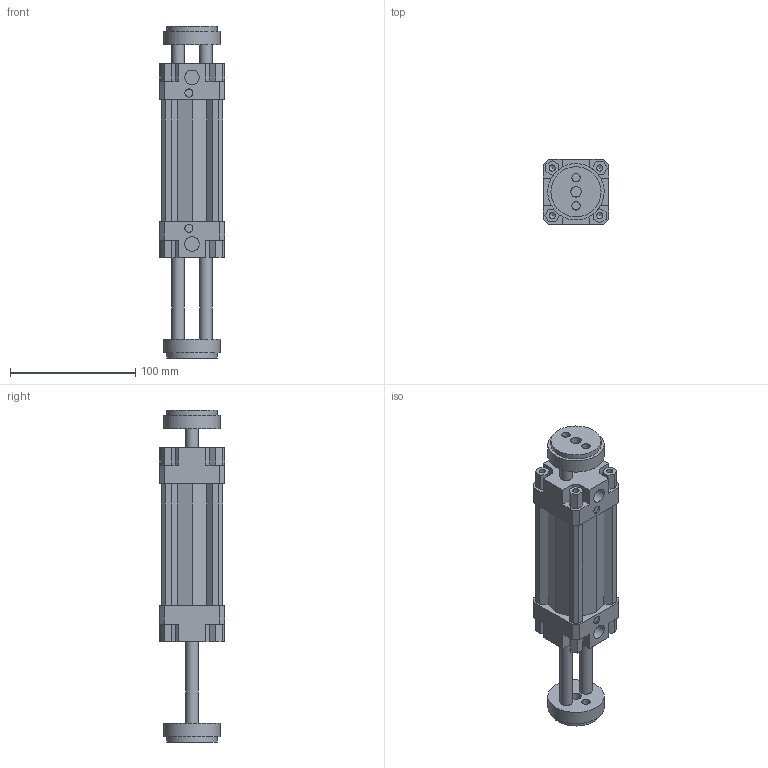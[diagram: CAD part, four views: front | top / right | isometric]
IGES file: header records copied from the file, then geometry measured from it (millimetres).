
Global section: file name: 132#_040_0050_06; native system: Autodesk Inventor 2014; preprocessor: unknown; author: A. Manieri; date: 20161006.154753; units: millimetre
Bounding box: 52 x 52 x 265 mm (x, y, z)
Volume: 325793.4 mm3; surface area: 94780.1 mm2
Topology: 2 solids, 2 shells, 190 faces, 518 edges, 354 vertices
Faces by surface type: bspline 190
